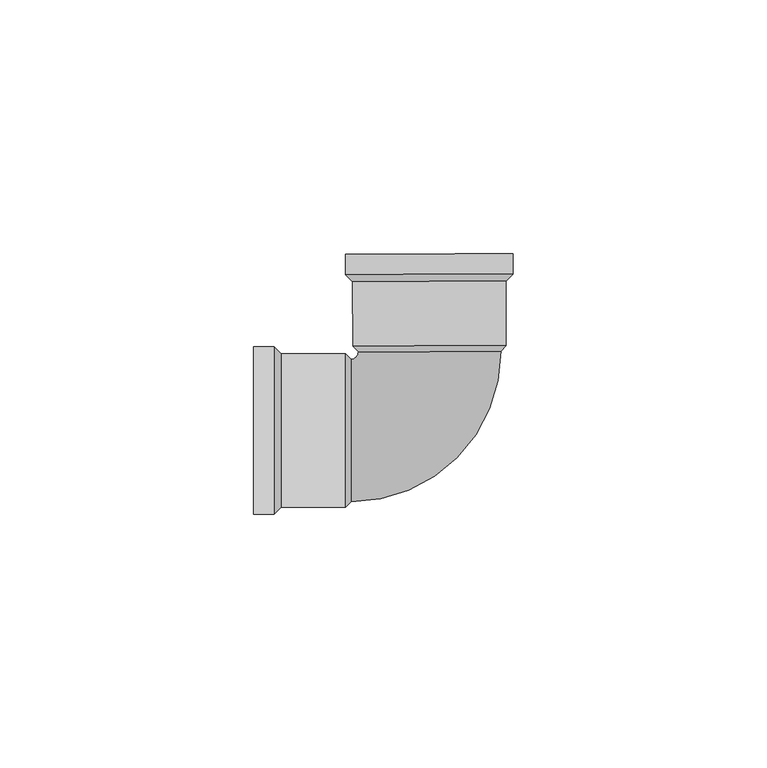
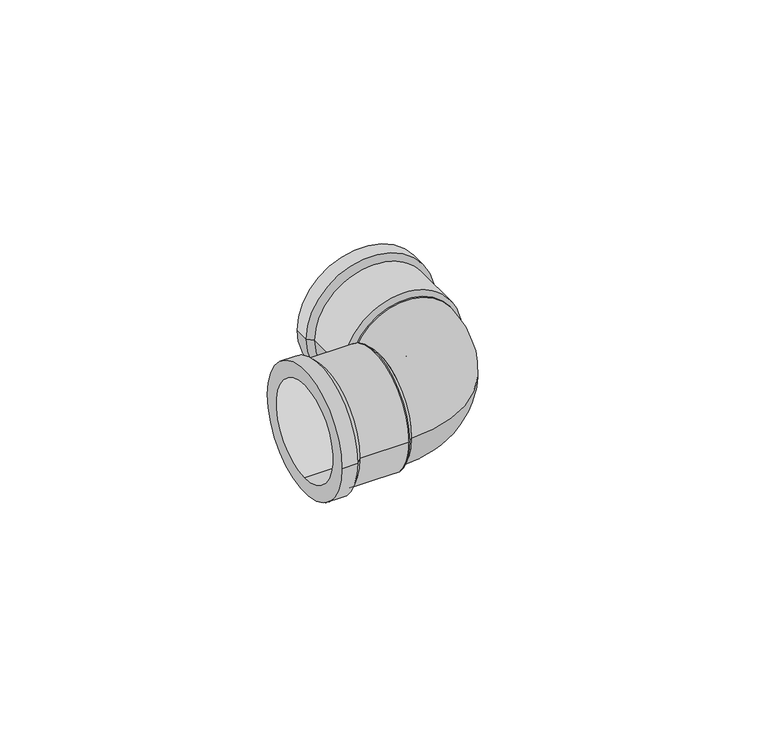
"""IFC4 building model written with IfcOpenShell, lengths in millimetres: pipe fitting geometry, Joelho 45_90 - Agua Fria_Soldavel : Joelho 45_90 - Agua Fria_Soldavel."""

from ifc_helpers import new_model, si_unit, point, frame, origin, place, context, project, spatial, polyline, circle_curve, ellipse_curve, trimmed, source, transform, mapped, element, save
from ifc_brep_helpers import plane_surface, cylinder_surface, revolved_surface, advanced_brep


def pipe_fitting_8690ee65(model_context):
    return source(origin(), model_context, "Body", "AdvancedBrep", [
        advanced_brep(
        [(15.0365929, 16.7162609, 0.0), (-15.1631891, 16.6015119, 0.0), (13.9807801, 15.6122412, 0.0), (-14.0990172, 15.5055475, 0.0)],
        [
            (0, 1, circle_curve(frame((-0.0632981, 16.6588864, 0.0), z_axis=(-0.0037996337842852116, 0.9999927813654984, 0.0), x_axis=(0.9999927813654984, 0.0037996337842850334, 0.0)), 15.1)),
            (1, 0, circle_curve(frame((-0.0632981, 16.6588864, 0.0), z_axis=(-0.0037996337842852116, 0.9999927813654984, 0.0), x_axis=(-0.9999927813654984, -0.0037996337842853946, 0.0)), 15.1)),
            (2, 3, circle_curve(frame((-0.0591185, 15.5588943, 0.0), z_axis=(0.0037996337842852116, -0.9999927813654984, 0.0), x_axis=(-0.9999927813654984, -0.0037996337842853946, 0.0)), 14.04)),
            (3, 2, circle_curve(frame((-0.0591185, 15.5588943, 0.0), z_axis=(0.0037996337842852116, -0.9999927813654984, 0.0), x_axis=(0.9999927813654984, 0.0037996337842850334, 0.0)), 14.04)),
            (3, 1),
            (0, 2),
        ],
        [
            plane_surface(frame((-0.0632981, 16.6588864, 0.0), z_axis=(-0.0037996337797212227, 0.9999927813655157, 0.0), x_axis=(0.0, 0.0, -1.0))),
            plane_surface(frame((-0.0591185, 15.5588943, 0.0), z_axis=(0.0037996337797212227, -0.9999927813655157, 0.0), x_axis=(0.0, 0.0, -1.0))),
            revolved_surface(polyline([(-14.099017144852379, 15.505547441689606, 0.0), (-15.163189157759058, 16.60151195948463, 0.0)]), (-0.0037586, 0.9891882, 0.0), (-0.0037996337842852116, 0.9999927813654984, 0.0)),
            revolved_surface(polyline([(13.980780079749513, 15.612241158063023, 0.0), (15.0365929, 16.7162609, 0.0)]), (-0.0037586, 0.9891882, 0.0), (-0.0037996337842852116, 0.9999927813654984, 0.0)),
        ],
        [
            (0, [[1, 2]]),
            (1, [[3, 4]]),
            (2, [[-4, 5, -1, 6]]),
            (3, [[-3, -6, -2, -5]]),
        ],
    ),
        advanced_brep(
        [(-16.6590066, 15.1, 0.0), (-16.6590066, -15.1, 0.0), (-15.5590066, 14.04, 0.0), (-15.5590066, -14.04, 0.0)],
        [
            (0, 1, circle_curve(frame((-16.6590066, 0.0, 0.0), z_axis=(-1.0, 0.0, 0.0), x_axis=(0.0, 1.0, 0.0)), 15.1)),
            (1, 0, circle_curve(frame((-16.6590066, 0.0, 0.0), z_axis=(-1.0, 0.0, 0.0), x_axis=(0.0, -1.0, 0.0)), 15.1)),
            (2, 3, circle_curve(frame((-15.5590066, 0.0, 0.0), z_axis=(1.0, 0.0, 0.0), x_axis=(0.0, -1.0, 0.0)), 14.04)),
            (3, 2, circle_curve(frame((-15.5590066, 0.0, 0.0), z_axis=(1.0, 0.0, 0.0), x_axis=(0.0, 1.0, 0.0)), 14.04)),
            (3, 1),
            (0, 2),
        ],
        [
            plane_surface(frame((-16.6590066, 0.0, 0.0), z_axis=(-1.0, 0.0, 0.0), x_axis=(0.0, 0.0, -1.0))),
            plane_surface(frame((-15.5590066, 0.0, 0.0), z_axis=(1.0, 0.0, 0.0), x_axis=(0.0, 0.0, -1.0))),
            revolved_surface(polyline([(-15.5590066, -14.039999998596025, 0.0), (-16.6590066, -15.1, 0.0)]), (-0.9891953, 0.0, 0.0), (-1.0, 0.0, 0.0)),
            revolved_surface(polyline([(-15.5590066, 14.039999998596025, 0.0), (-16.6590066, 15.1, 0.0)]), (-0.9891953, 0.0, 0.0), (-1.0, 0.0, 0.0)),
        ],
        [
            (0, [[1, 2]]),
            (1, [[3, 4]]),
            (2, [[-4, 5, -1, 6]]),
            (3, [[-3, -6, -2, -5]]),
        ],
    ),
        advanced_brep(
        [(-34.7590066, 16.5, 0.0), (-34.7590066, -16.5, 0.0), (-34.7590066, 0.0, 12.5), (-34.7590066, 0.0, -12.5), (-30.7590066, -16.5, 0.0), (-30.7590066, 16.5, 0.0), (-29.3590066, 15.1, 0.0), (-29.3590066, -15.1, 0.0), (-16.6590066, 15.1, 0.0), (-16.6590066, -15.1, 0.0), (-16.6590066, 0.0, -12.5), (-16.6590066, 0.0, 12.5)],
        [
            (0, 1, circle_curve(frame((-34.7590066, 0.0, 0.0), z_axis=(-1.0, 0.0, 0.0), x_axis=(0.0, -1.0, 0.0)), 16.5)),
            (1, 0, circle_curve(frame((-34.7590066, 0.0, 0.0), z_axis=(-1.0, 0.0, 0.0), x_axis=(0.0, -1.0, 0.0)), 16.5)),
            (2, 3, circle_curve(frame((-34.7590066, 0.0, 0.0), z_axis=(1.0, 0.0, 0.0), x_axis=(0.0, 0.0, -1.0)), 12.5)),
            (3, 2, circle_curve(frame((-34.7590066, 0.0, 0.0), z_axis=(1.0, 0.0, 0.0), x_axis=(0.0, 0.0, -1.0)), 12.5)),
            (1, 4),
            (4, 5, circle_curve(frame((-30.7590066, 0.0, 0.0), z_axis=(-1.0, 0.0, 0.0), x_axis=(0.0, -1.0, 0.0)), 16.5)),
            (5, 0),
            (5, 4, circle_curve(frame((-30.7590066, 0.0, 0.0), z_axis=(-1.0, 0.0, 0.0), x_axis=(0.0, -1.0, 0.0)), 16.5)),
            (6, 5),
            (4, 7),
            (7, 6, circle_curve(frame((-29.3590066, 0.0, 0.0), z_axis=(-1.0, 0.0, 0.0), x_axis=(0.0, -1.0, 0.0)), 15.1)),
            (6, 7, circle_curve(frame((-29.3590066, 0.0, 0.0), z_axis=(-1.0, 0.0, 0.0), x_axis=(0.0, 1.0, 0.0)), 15.1)),
            (8, 9, circle_curve(frame((-16.6590066, 0.0, 0.0), z_axis=(1.0, 0.0, 0.0), x_axis=(0.0, -1.0, 0.0)), 15.1)),
            (9, 8, circle_curve(frame((-16.6590066, 0.0, 0.0), z_axis=(1.0, 0.0, 0.0), x_axis=(0.0, -1.0, 0.0)), 15.1)),
            (10, 11, circle_curve(frame((-16.6590066, 0.0, 0.0), z_axis=(-1.0, 0.0, 0.0), x_axis=(0.0, 0.0, -1.0)), 12.5)),
            (11, 10, circle_curve(frame((-16.6590066, 0.0, 0.0), z_axis=(-1.0, 0.0, 0.0), x_axis=(0.0, 0.0, -1.0)), 12.5)),
            (8, 6),
            (7, 9),
            (10, 3),
            (2, 11),
        ],
        [
            plane_surface(frame((-34.7590066, 0.0, 0.0), z_axis=(-1.0, 0.0, 0.0), x_axis=(0.0, 0.0, 1.0))),
            cylinder_surface(frame((-30.7590066, 0.0, 0.0), z_axis=(1.0, 0.0, 0.0), x_axis=(0.0, -1.0, 0.0)), 16.5),
            revolved_surface(polyline([(-29.3590066, 15.100000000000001, 0.0), (-30.7590066, 16.5, 0.0)]), (-14.2590066, 0.0, 0.0), (-1.0, 0.0, 0.0)),
            plane_surface(frame((-16.6590066, 0.0, 0.0), z_axis=(1.0, 0.0, 0.0), x_axis=(0.0, 0.0, 1.0))),
            cylinder_surface(frame((-16.6590066, 0.0, 0.0), z_axis=(1.0, 0.0, 0.0), x_axis=(0.0, -1.0, 0.0)), 15.1),
            revolved_surface(polyline([(-16.6590066, 0.0, -12.5), (-34.7590066, 0.0, -12.5)]), (-34.7590066, 0.0, 0.0), (1.0, 0.0, 0.0)),
        ],
        [
            (0, [[1, 2], [3, 4]]),
            (1, [[-2, 5, 6, 7]]),
            (1, [[-1, -7, 8, -5]]),
            (2, [[9, -6, 10, 11]]),
            (2, [[-9, 12, -10, -8]]),
            (3, [[13, 14], [15, 16]]),
            (4, [[-13, 17, -11, 18]]),
            (4, [[-14, -18, -12, -17]]),
            (5, [[19, -3, 20, -15]]),
            (5, [[-19, -16, -20, -4]]),
        ],
    ),
        advanced_brep(
        [(-15.5590066, -14.04, 0.0), (-15.5590066, 14.04, 0.0), (13.9807801, 15.6122412, 0.0), (-14.0990172, 15.5055475, 0.0)],
        [
            (0, 1, circle_curve(frame((-15.5590066, 0.0, 0.0), z_axis=(-1.0, 0.0, 0.0), x_axis=(0.0, 1.0, 0.0)), 14.04)),
            (1, 0, circle_curve(frame((-15.5590066, 0.0, 0.0), z_axis=(-1.0, 0.0, 0.0), x_axis=(0.0, 1.0, 0.0)), 14.04)),
            (2, 3, circle_curve(frame((-0.0591185, 15.5588943, 0.0), z_axis=(-0.0037996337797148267, 0.9999927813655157, 0.0), x_axis=(-0.9999927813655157, -0.0037996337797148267, 0.0)), 14.04)),
            (3, 2, circle_curve(frame((-0.0591185, 15.5588943, 0.0), z_axis=(-0.0037996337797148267, 0.9999927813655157, 0.0), x_axis=(-0.9999927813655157, -0.0037996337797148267, 0.0)), 14.04)),
            (0, 2, circle_curve(frame((-15.5590066, 15.5, 0.0), z_axis=(0.0, 0.0, 1.0), x_axis=(0.0, -1.0, 0.0)), 29.54)),
            (3, 1, circle_curve(frame((-15.5590066, 15.5, 0.0), z_axis=(0.0, 0.0, -1.0), x_axis=(0.0, -1.0, 0.0)), 1.46)),
        ],
        [
            plane_surface(frame((-15.5590066, 0.0, 0.0), z_axis=(-1.0, 0.0, 0.0), x_axis=(0.0, 0.0, 1.0))),
            plane_surface(frame((-0.0591185, 15.5588943, 0.0), z_axis=(-0.003799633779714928, 0.9999927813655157, 0.0), x_axis=(0.0, 0.0, 1.0))),
            revolved_surface(trimmed(ellipse_curve(frame((-15.5590066, 0.0, 0.0), z_axis=(-1.0, 0.0, 0.0), x_axis=(0.0, 1.0, 0.0)), 14.04, 14.04), [point((-15.5590066, -14.04, 0.0))], [point((-15.5590066, 14.04, 0.0))], True, "CARTESIAN"), (-15.5590066, 15.5, 0.0), (0.0, 0.0, 1.0)),
            revolved_surface(trimmed(ellipse_curve(frame((-15.5590066, 0.0, 0.0), z_axis=(-1.0, 0.0, 0.0), x_axis=(0.0, 1.0, 0.0)), 14.04, 14.04), [point((-15.5590066, 14.04, 0.0))], [point((-15.5590066, -14.04, 0.0))], True, "CARTESIAN"), (-15.5590066, 15.5, 0.0), (0.0, 0.0, 1.0)),
        ],
        [
            (0, [[1, 2]]),
            (1, [[3, 4]]),
            (2, [[-1, 5, -4, 6]]),
            (3, [[-2, -6, -3, -5]]),
        ],
    ),
        advanced_brep(
        [(15.0365929, 16.7162609, 0.0), (-15.1631891, 16.6015119, 0.0), (-0.0632981, 16.6588864, -12.5), (-0.0632981, 16.6588864, 12.5), (14.9883375, 29.4161692, 0.0), (-15.2114445, 29.3014202, 0.0), (16.3830079, 30.8214786, 0.0), (-16.6167539, 30.6960906, 0.0), (16.3678094, 34.8214497, 0.0), (-16.6319524, 34.6960618, 0.0), (-0.1320715, 34.7587557, 12.5), (-0.1320715, 34.7587557, -12.5)],
        [
            (0, 1, circle_curve(frame((-0.0632981, 16.6588864, 0.0), z_axis=(0.003799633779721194, -0.9999927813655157, 0.0), x_axis=(-0.9999927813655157, -0.003799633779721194, 0.0)), 15.1)),
            (1, 0, circle_curve(frame((-0.0632981, 16.6588864, 0.0), z_axis=(0.003799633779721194, -0.9999927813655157, 0.0), x_axis=(-0.9999927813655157, -0.003799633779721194, 0.0)), 15.1)),
            (2, 3, circle_curve(frame((-0.0632981, 16.6588864, 0.0), z_axis=(-0.003799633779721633, 0.9999927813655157, 0.0), x_axis=(0.0, 0.0, -1.0)), 12.5)),
            (3, 2, circle_curve(frame((-0.0632981, 16.6588864, 0.0), z_axis=(-0.003799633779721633, 0.9999927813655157, 0.0), x_axis=(0.0, 0.0, -1.0)), 12.5)),
            (0, 4),
            (4, 5, circle_curve(frame((-0.1115535, 29.3587947, 0.0), z_axis=(0.003799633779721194, -0.9999927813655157, 0.0), x_axis=(-0.9999927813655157, -0.003799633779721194, 0.0)), 15.1)),
            (5, 1),
            (5, 4, circle_curve(frame((-0.1115535, 29.3587947, 0.0), z_axis=(0.003799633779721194, -0.9999927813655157, 0.0), x_axis=(-0.9999927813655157, -0.003799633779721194, 0.0)), 15.1)),
            (4, 6),
            (6, 7, circle_curve(frame((-0.116873, 30.7587846, 0.0), z_axis=(0.0037996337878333, -0.9999927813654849, 0.0), x_axis=(-0.9999927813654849, -0.003799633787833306, 0.0)), 16.5)),
            (7, 5),
            (7, 6, circle_curve(frame((-0.116873, 30.7587846, 0.0), z_axis=(0.0037996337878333, -0.9999927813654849, 0.0), x_axis=(0.9999927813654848, 0.003799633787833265, 0.0)), 16.5)),
            (8, 9, circle_curve(frame((-0.1320715, 34.7587557, 0.0), z_axis=(-0.003799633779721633, 0.9999927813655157, 0.0), x_axis=(-0.9999927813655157, -0.003799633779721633, 0.0)), 16.5)),
            (9, 8, circle_curve(frame((-0.1320715, 34.7587557, 0.0), z_axis=(-0.003799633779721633, 0.9999927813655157, 0.0), x_axis=(-0.9999927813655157, -0.003799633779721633, 0.0)), 16.5)),
            (10, 11, circle_curve(frame((-0.1320715, 34.7587557, 0.0), z_axis=(0.003799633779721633, -0.9999927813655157, 0.0), x_axis=(0.0, 0.0, -1.0)), 12.5)),
            (11, 10, circle_curve(frame((-0.1320715, 34.7587557, 0.0), z_axis=(0.003799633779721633, -0.9999927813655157, 0.0), x_axis=(0.0, 0.0, -1.0)), 12.5)),
            (9, 7),
            (6, 8),
            (2, 11),
            (10, 3),
        ],
        [
            plane_surface(frame((-0.0632981, 16.6588864, 0.0), z_axis=(0.003799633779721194, -0.9999927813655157, 0.0), x_axis=(0.0, 0.0, 1.0))),
            cylinder_surface(frame((-0.0632981, 16.6588864, 0.0), z_axis=(0.003799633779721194, -0.9999927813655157, 0.0), x_axis=(-0.9999927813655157, -0.003799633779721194, 0.0)), 15.1),
            revolved_surface(polyline([(14.988337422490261, 29.41616914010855, 0.0), (16.3830079, 30.8214786, 0.0)]), (-0.054179, 14.2589037, 0.0), (-0.0037996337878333, 0.9999927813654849, 0.0)),
            plane_surface(frame((-0.1320715, 34.7587557, 0.0), z_axis=(-0.003799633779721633, 0.9999927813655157, 0.0), x_axis=(0.0, 0.0, 1.0))),
            cylinder_surface(frame((-0.116873, 30.7587846, 0.0), z_axis=(0.003799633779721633, -0.9999927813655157, 0.0), x_axis=(-0.9999927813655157, -0.003799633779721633, 0.0)), 16.5),
            revolved_surface(polyline([(-0.06329812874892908, 16.65888639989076, -12.5), (-0.1320715, 34.7587557, -12.5)]), (-0.1320715, 34.7587557, 0.0), (0.003799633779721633, -0.9999927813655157, 0.0)),
        ],
        [
            (0, [[1, 2], [3, 4]]),
            (1, [[-1, 5, 6, 7]]),
            (1, [[-2, -7, 8, -5]]),
            (2, [[9, 10, 11, -6]]),
            (2, [[-9, -8, -11, 12]]),
            (3, [[13, 14], [15, 16]]),
            (4, [[-14, 17, -10, 18]]),
            (4, [[-13, -18, -12, -17]]),
            (5, [[19, -15, 20, -3]]),
            (5, [[-19, -4, -20, -16]]),
        ],
    ),
    ])


if __name__ == "__main__":
    model = new_model("IFC4")
    model_context = context("Model", 3, world=origin())
    ifc_project = project(units=[si_unit("LENGTHUNIT", "METRE", prefix="MILLI")], contexts=[model_context])
    site = spatial("IfcSite", under=ifc_project)
    building = spatial("IfcBuilding", under=site)
    placement = place(None, origin())
    pipe_fitting_shape = pipe_fitting_8690ee65(model_context)
    element("IfcPipeFitting", 1, ObjectType="Joelho 45_90 - Agua Fria_Soldavel : Joelho 45_90 - Agua Fria_Soldavel", at=placement, inside=building, context=model_context, shape_type="MappedRepresentation", body=[
        mapped(pipe_fitting_shape, transform((0.0, 0.0, 0.0), x_axis=(1.0, 0.0, 0.0), y_axis=(0.0, 1.0, 0.0), z_axis=(0.0, 0.0, 1.0))),
    ])
    save(model, "model.ifc")
